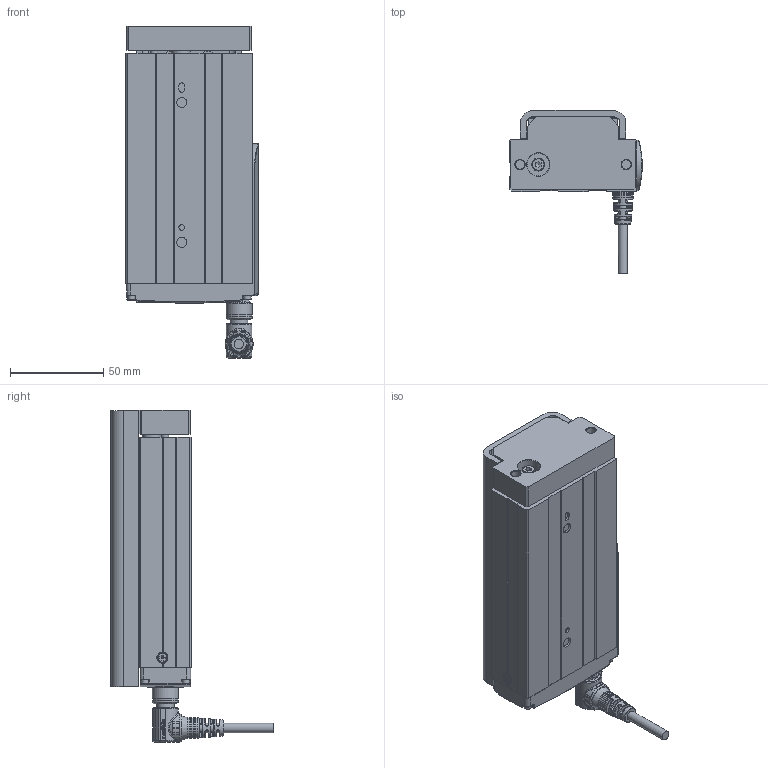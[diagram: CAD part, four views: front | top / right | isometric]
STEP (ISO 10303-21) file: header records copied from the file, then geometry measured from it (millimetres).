
FILE_DESCRIPTION(/* description */ ('STEP AP203'),/* implementation_level */ '2;1');
FILE_NAME(/* name */ 'D:\暫\2025.02.06 CSG 3D\CSG25\CSG25-S75-WM.stp',/* time_stamp */ '2025-02-08T10:02:29+08:00',/* author */ ('T10033'),/* organization */ (''),/* preprocessor_version */ 'ST-DEVELOPER v18.1',/* originating_system */ 'Autodesk Inventor 2020',/* authorisation */ '');
FILE_SCHEMA (('CONFIG_CONTROL_DESIGN'));
Products named in the file (18): CSG25-50行程-180接頭-完整組合; 22035-000061(G4ªo¯]); countersunk flat head cross recess screw_iso_ISO 7046-1 - M2.5 x 4 - 
Z - 4N; ©T©wªO-·¥­­¾×ª
O4-M2¤ú; socket head cap screw_iso_ISO 4762 M2.5 x 6 - 6N; socket head cap screw_iso_ISO 4762 M2.5 x 8 - 8N; ¶ì½¦ºÝ»-L¼Ë¦¡
(TOYO); socket head cap screw_iso_ISO 4762 M2 x 12 - 12N; M12 -14PIN  ªOºÝ-²Ä¤@ºØ
³W®æ; CSG25-50¥»Åé3ª©-ªo¤Õ
½Õ¾ã¨¤«×; CSG25-Carriage-newtype; Solid1-2; M12-14PIN 線端90度接頭-05中繼線; 12003-000221-­×§ï; 22024-000496; CNS 3932 - M 4 x 0.7 x 12; socket head cap screw_iso_ISO 4762 M2.5 x 5 - 5N; CNS 4558 - M5 x 0.8 x 12
Assembly tree (29 placements, depth 2):
  CSG25-50行程-180接頭-完整組合
    22035-000061(G4ªo¯])
    socket head cap screw_iso_ISO 4762 M2.5 x 8 - 8N  x8
    countersunk flat head cross recess screw_iso_ISO 7046-1 - M2.5 x 4 - 
Z - 4N
    ©T©wªO-·¥­­¾×ª
O4-M2¤ú
    socket head cap screw_iso_ISO 4762 M2.5 x 6 - 6N  x2
    ¶ì½¦ºÝ»-L¼Ë¦¡
(TOYO)
    socket head cap screw_iso_ISO 4762 M2 x 12 - 12N  x4
    M12 -14PIN  ªOºÝ-²Ä¤@ºØ
³W®æ
    CSG25-50¥»Åé3ª©-ªo¤Õ
½Õ¾ã¨¤«×
    CSG25-Carriage-newtype
    Solid1-2
    M12-14PIN 線端90度接頭-05中繼線
    12003-000221-­×§ï
    22024-000496
    CNS 3932 - M 4 x 0.7 x 12
    socket head cap screw_iso_ISO 4762 M2.5 x 5 - 5N
    CNS 4558 - M5 x 0.8 x 12  x2
Bounding box: 71 x 87.54 x 178 mm (x, y, z)
Volume: 338566.9 mm3; surface area: 89823 mm2
Topology: 43 solids, 53 shells, 2988 faces, 8205 edges, 5450 vertices
Faces by surface type: plane 1432, bspline 647, cylinder 495, cone 282, torus 125, sphere 7
Full cylindrical faces by diameter (mm): 0.6 x14, 0.65 x14, 1 x14, 1.6 x4, 2 x4, 2.05 x3, 2.5 x13, 2.9 x2, 3 x3, 3.8 x4, 4 x1, 4.134 x8, 4.5 x11, 4.7 x1, 4.95 x1, 5 x6, 5.2 x1, 5.3 x2, 5.4 x4, 5.5 x4, 6 x3, 7 x1, 8 x1, 8.9 x1, 9 x12, 9.5 x2, 9.6 x1, 10 x6, 10.4 x2, 10.5 x2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
Entity records: 115305 total; most frequent: CARTESIAN_POINT 44544, ORIENTED_EDGE 15129, DIRECTION 13277, EDGE_CURVE 7583, VERTEX_POINT 5063, AXIS2_PLACEMENT_3D 4641, LINE 3995, VECTOR 3995
